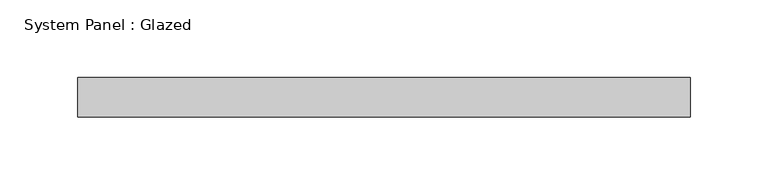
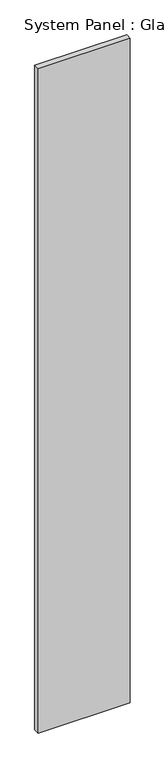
"""IFC4 building model written with IfcOpenShell, lengths in millimetres: plate geometry, System Panel : Glazed."""

from ifc_helpers import new_model, si_unit, origin, origin_with_axes, place, context, project, spatial, polyline, outline, extrude, source, transform, mapped, element, save


def system_panel_glazed_4997d7a8(model_context):
    return source(origin(), model_context, "Body", "SweptSolid", [
        extrude(outline(polyline([(197.4084914, -44.45), (-197.4084914, -44.45), (-197.4084914, -19.05), (197.4084914, -19.05), (197.4084914, -44.45)])), origin_with_axes(), (0.0, 0.0, 1.0), 3009.9),
    ])


if __name__ == "__main__":
    model = new_model("IFC4")
    model_context = context("Model", 3, world=origin())
    ifc_project = project(units=[si_unit("LENGTHUNIT", "METRE", prefix="MILLI")], contexts=[model_context])
    site = spatial("IfcSite", under=ifc_project)
    building = spatial("IfcBuilding", under=site)
    placement = place(None, origin())
    system_panel_glazed_shape = system_panel_glazed_4997d7a8(model_context)
    element("IfcPlate", 1, ObjectType="System Panel : Glazed", at=placement, inside=building, context=model_context, shape_type="MappedRepresentation", body=[
        mapped(system_panel_glazed_shape, transform((0.0, 0.0, 0.0), x_axis=(1.0, 0.0, 0.0), y_axis=(0.0, 1.0, 0.0), z_axis=(0.0, 0.0, 1.0))),
    ])
    save(model, "model.ifc")
